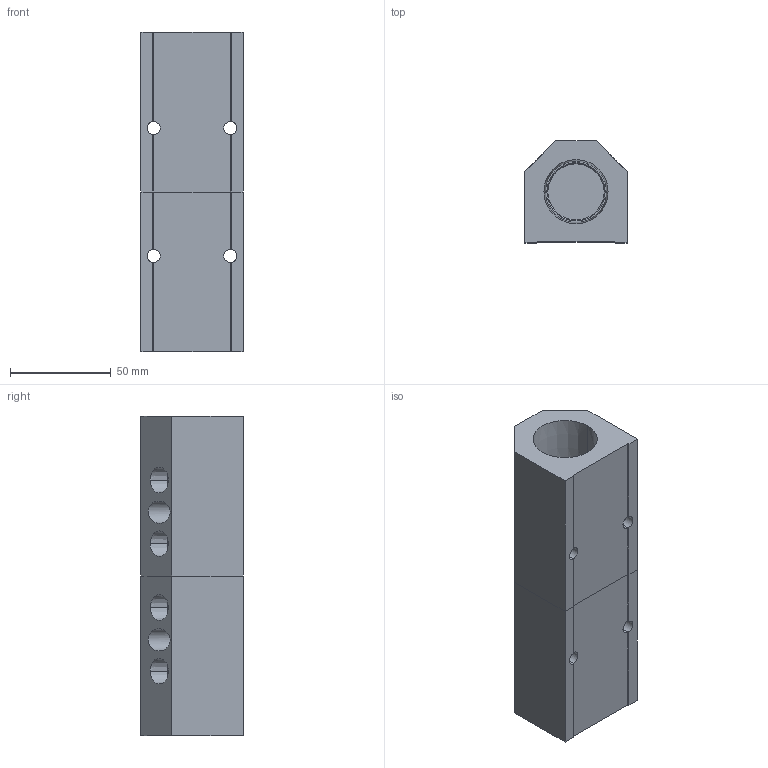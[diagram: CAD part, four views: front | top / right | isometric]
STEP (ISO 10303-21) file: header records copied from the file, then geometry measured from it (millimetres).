
FILE_DESCRIPTION (( 'STEP AP214' ), '1' );
FILE_NAME ('ALM4BCD-N4N16-159RB.STEP', '2023-11-02T06:10:34', ( '' ), ( '' ), 'SwSTEP 2.0', 'SolidWorks 2020', '' );
FILE_SCHEMA (( 'AUTOMOTIVE_DESIGN' ));
Length unit declared in the file: millimetre
Products named in the file (1): ALM4BCD-N4N16-159RB
Bounding box: 50.8 x 50.8 x 159 mm (x, y, z)
Volume: 241312 mm3; surface area: 58971.5 mm2
Topology: 2 solids, 2 shells, 368 faces, 956 edges, 632 vertices
Faces by surface type: plane 246, bspline 66, cone 32, cylinder 24
Entity records: 19832 total; most frequent: CARTESIAN_POINT 7799, ORIENTED_EDGE 1912, DIRECTION 1462, EDGE_CURVE 956, LINE 712, VECTOR 712, VERTEX_POINT 632, EDGE_LOOP 440
